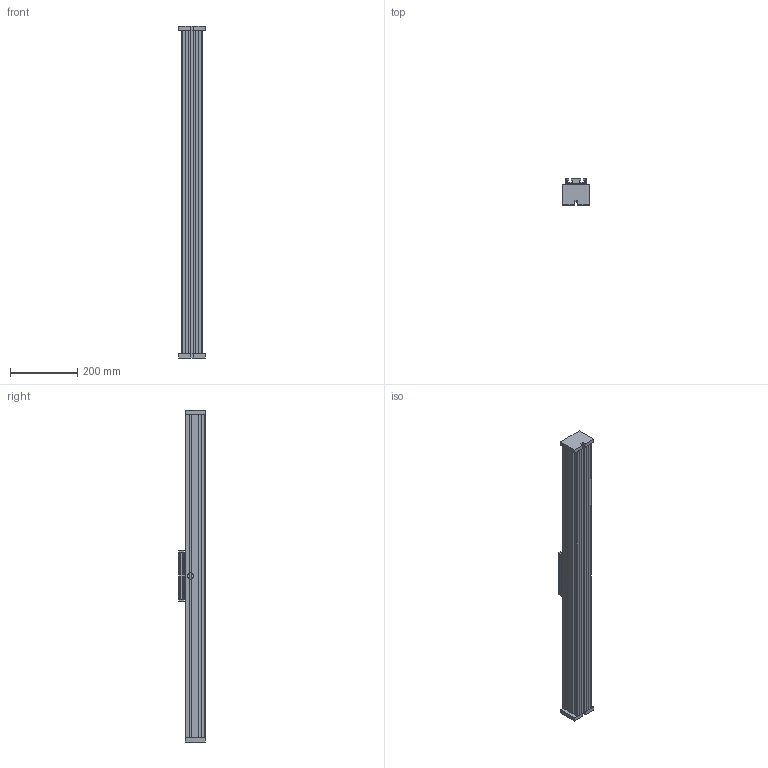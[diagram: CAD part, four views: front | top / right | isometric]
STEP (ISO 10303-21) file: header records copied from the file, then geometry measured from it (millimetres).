
FILE_DESCRIPTION (( 'STEP AP214' ), '1' );
FILE_NAME ('QLR60.STEP', '2022-06-29T11:20:05', ( '' ), ( '' ), 'SwSTEP 2.0', 'SolidWorks 2020', '' );
FILE_SCHEMA (( 'AUTOMOTIVE_DESIGN' ));
Length unit declared in the file: millimetre
Products named in the file (4): carriage^QLR60_carriage 0; profile^QLR60; QLR60; end plate^QLR60_60
Assembly tree (4 placements, depth 2):
  QLR60
    profile^QLR60
    carriage^QLR60_carriage 0
    end plate^QLR60_60  x2
Bounding box: 80 x 79 x 990 mm (x, y, z)
Volume: 2685165.5 mm3; surface area: 447071 mm2
Topology: 8 solids, 8 shells, 193 faces, 515 edges, 338 vertices
Faces by surface type: plane 142, cylinder 43, torus 8
Entity records: 5854 total; most frequent: CARTESIAN_POINT 991, ORIENTED_EDGE 970, DIRECTION 951, EDGE_CURVE 485, VECTOR 395, LINE 395, VERTEX_POINT 318, AXIS2_PLACEMENT_3D 278
